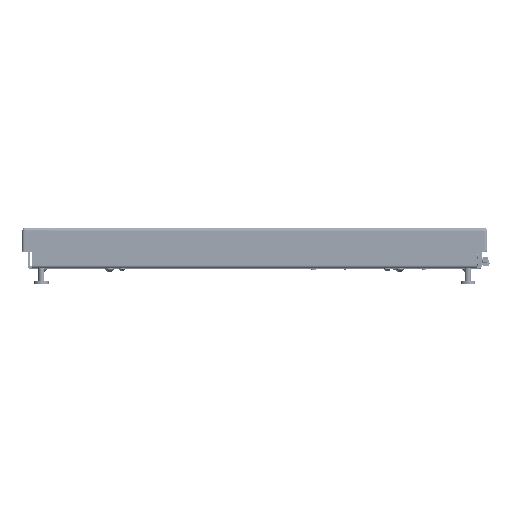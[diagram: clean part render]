
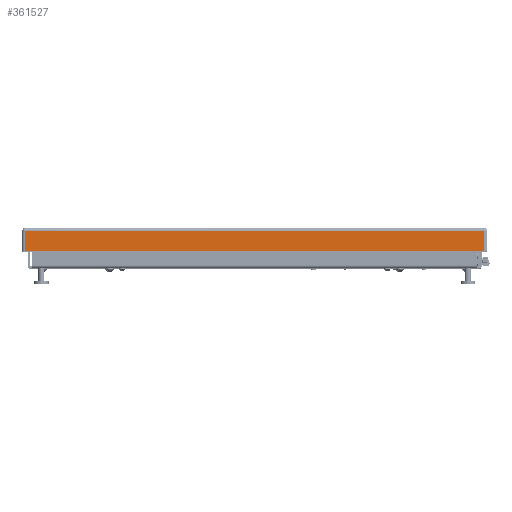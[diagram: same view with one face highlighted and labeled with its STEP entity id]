
A CAD part, top view. The second image highlights one B-rep face of the part: STEP entity #361527.
In plain terms, the highlighted planar face has unit normal (0, 0, 1) as drawn and (0, 0, -1) by its records, which use the part's own axes.
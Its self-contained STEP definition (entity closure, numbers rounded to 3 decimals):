
#33455 = VECTOR ( 'NONE', #334066, 1000. ) ;
#88700 = LINE ( 'NONE', #694141, #674490 ) ;
#123182 = CARTESIAN_POINT ( 'NONE',  ( 0., 0., -300. ) ) ;
#145115 = CARTESIAN_POINT ( 'NONE',  ( 296.27, 0.813, -300. ) ) ;
#158903 = EDGE_CURVE ( 'NONE', #316298, #450380, #580187, .T. ) ;
#176801 = DIRECTION ( 'NONE',  ( 0., -1., 0. ) ) ;
#188845 = LINE ( 'NONE', #572021, #33455 ) ;
#198885 = ORIENTED_EDGE ( 'NONE', *, *, #514041, .T. ) ;
#209224 = CARTESIAN_POINT ( 'NONE',  ( -296.27, 26.437, -300. ) ) ;
#252468 = CARTESIAN_POINT ( 'NONE',  ( 300., 0.813, -300. ) ) ;
#264046 = VECTOR ( 'NONE', #459726, 1000. ) ;
#265566 = ORIENTED_EDGE ( 'NONE', *, *, #711030, .F. ) ;
#278189 = ORIENTED_EDGE ( 'NONE', *, *, #158903, .F. ) ;
#299253 = EDGE_LOOP ( 'NONE', ( #278189, #198885, #472564, #265566 ) ) ;
#308352 = VERTEX_POINT ( 'NONE', #209224 ) ;
#316298 = VERTEX_POINT ( 'NONE', #591912 ) ;
#334066 = DIRECTION ( 'NONE',  ( 1., 0., 0. ) ) ;
#338423 = DIRECTION ( 'NONE',  ( 0., 1., 0. ) ) ;
#351916 = CARTESIAN_POINT ( 'NONE',  ( 296.27, 0., -300. ) ) ;
#361527 = ADVANCED_FACE ( 'NONE', ( #467130 ), #527362, .F. ) ;
#394561 = AXIS2_PLACEMENT_3D ( 'NONE', #123182, #471084, #176801 ) ;
#450380 = VERTEX_POINT ( 'NONE', #145115 ) ;
#459726 = DIRECTION ( 'NONE',  ( 0., 1., 0. ) ) ;
#467130 = FACE_OUTER_BOUND ( 'NONE', #299253, .T. ) ;
#470041 = VECTOR ( 'NONE', #713257, 1000. ) ;
#471084 = DIRECTION ( 'NONE',  ( 0., 0., 1. ) ) ;
#472564 = ORIENTED_EDGE ( 'NONE', *, *, #576983, .T. ) ;
#514041 = EDGE_CURVE ( 'NONE', #316298, #308352, #88700, .T. ) ;
#527362 = PLANE ( 'NONE',  #394561 ) ;
#572021 = CARTESIAN_POINT ( 'NONE',  ( 0., 26.437, -300. ) ) ;
#576983 = EDGE_CURVE ( 'NONE', #308352, #699807, #188845, .T. ) ;
#580187 = LINE ( 'NONE', #252468, #470041 ) ;
#591912 = CARTESIAN_POINT ( 'NONE',  ( -296.27, 0.813, -300. ) ) ;
#623185 = CARTESIAN_POINT ( 'NONE',  ( 296.27, 26.437, -300. ) ) ;
#648883 = LINE ( 'NONE', #351916, #264046 ) ;
#674490 = VECTOR ( 'NONE', #338423, 1000. ) ;
#694141 = CARTESIAN_POINT ( 'NONE',  ( -296.27, 0., -300. ) ) ;
#699807 = VERTEX_POINT ( 'NONE', #623185 ) ;
#711030 = EDGE_CURVE ( 'NONE', #450380, #699807, #648883, .T. ) ;
#713257 = DIRECTION ( 'NONE',  ( 1., 0., 0. ) ) ;
